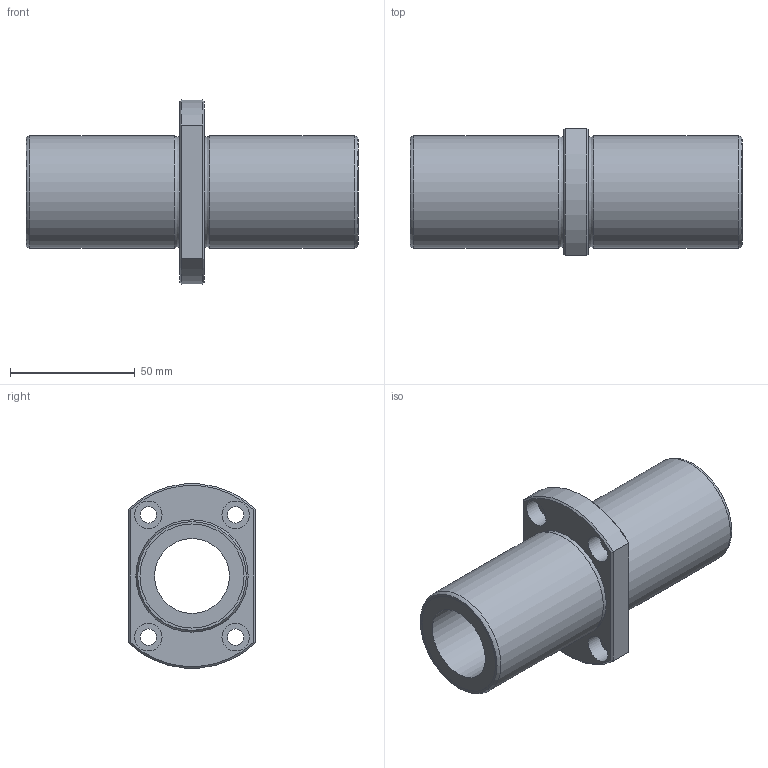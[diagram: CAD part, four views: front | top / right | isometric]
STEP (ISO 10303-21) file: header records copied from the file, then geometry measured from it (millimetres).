
FILE_DESCRIPTION((''),'2;1');
FILE_NAME('D:\製品 (図面)\カタログ用3D\メンテナンスフリー関連\STEP形式\LFDTC-MF\LFDTC30MF.stp','2010-06-01T15:49:03',('Tsuchiya'),(''),'Autodesk Inventor 10','Autodesk Inventor 10','');
FILE_SCHEMA(('AUTOMOTIVE_DESIGN { 1 0 10303 214 1 1 1 1 }'));
Length unit declared in the file: millimetre
Products named in the file (1): LFDTC30MF
Bounding box: 133 x 51 x 73.74 mm (x, y, z)
Volume: 132565 mm3; surface area: 38318.4 mm2
Topology: 1 solids, 1 shells, 39 faces, 75 edges, 46 vertices
Faces by surface type: plane 16, cylinder 15, cone 4, torus 2, bspline 2
Full cylindrical faces by diameter (mm): 6.6 x4, 11 x4, 30 x1, 41.7 x2, 45 x2
Entity records: 1073 total; most frequent: CARTESIAN_POINT 292, DIRECTION 164, ORIENTED_EDGE 116, AXIS2_PLACEMENT_3D 76, EDGE_LOOP 74, EDGE_CURVE 58, VERTEX_POINT 46, FACE_OUTER_BOUND 39
